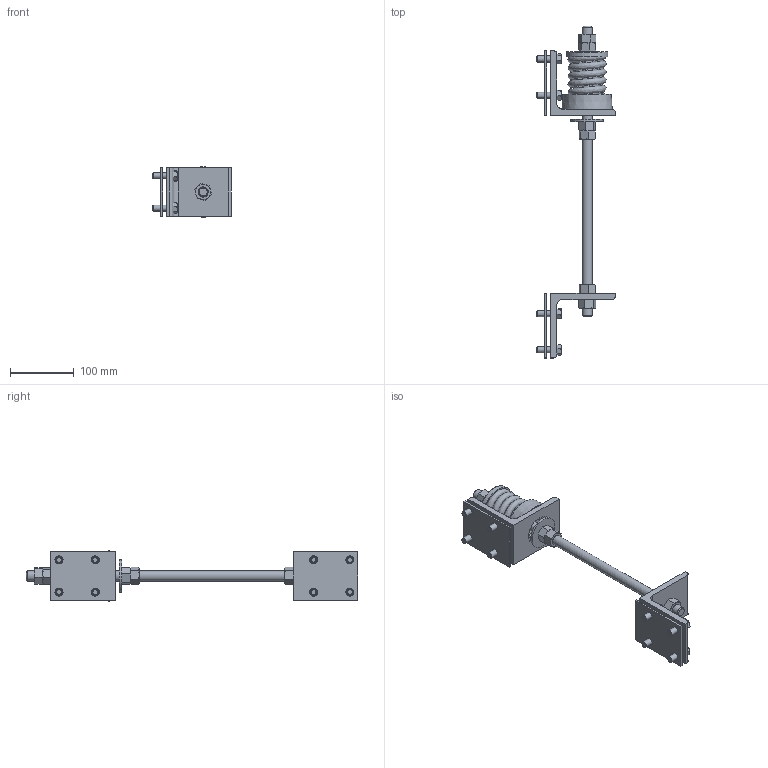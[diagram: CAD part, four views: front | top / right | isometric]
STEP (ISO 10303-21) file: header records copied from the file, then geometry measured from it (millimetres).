
FILE_DESCRIPTION((''),'2;1');
FILE_NAME('C:\2012_Work\Designs\WBI, WBD\B-750\WBD-B-1000_THRUST-RESTRAINT.stp','2013-10-22T13:06:36',('KShiels'),(''),'Autodesk Inventor 2012','Autodesk Inventor 2012','');
FILE_SCHEMA(('AUTOMOTIVE_DESIGN { 1 0 10303 214 1 1 1 1 }'));
Length unit declared in the file: inch
Products named in the file (15): WBD-B-1000_THRUST-RESTRAINT; A-16239 WBD-B2_ANGLE; A-16101-1 WBI, WBD-B-750_FIXED-SIDE-MOUNTING-ANGLE; ANSI B18.2.2 - 5_8 - 11(2)_WBI, WBD-B-750; A-16102 WBI, WBD-B-750_MOUNTING-PLATE; ANSI_ASME B18.2.1 - 3_8-16 UNC - 1.25(2)_WBI, WBD-BOLT; A-16239 WBD-B-1000_SPRING-MOUNT; A-16100-1 WBI, WBD-B-750_SPRING-MOUNTING-ANGLE; Stamped Steel Spring Cup B-21/32-Standard-A-3268-7; A-8588-3R LDS HANGER CUP B_WBI, WBD-B-750; A-8588-3R HANGER CUP B_WBI, WBD-B-750; A-8588-3R WASHER B_WBI, WBD-B-750; A-16386 WBI, WBD-B-750_WASHER; WBI, WBD-B-1000_SPRING; THREADED-ROD_0.625-11UNC, 18in-LONG
Assembly tree (27 placements, depth 4):
  WBD-B-1000_THRUST-RESTRAINT
    A-16239 WBD-B2_ANGLE
      A-16101-1 WBI, WBD-B-750_FIXED-SIDE-MOUNTING-ANGLE
      ANSI B18.2.2 - 5_8 - 11(2)_WBI, WBD-B-750  x2
      A-16102 WBI, WBD-B-750_MOUNTING-PLATE
      ANSI_ASME B18.2.1 - 3_8-16 UNC - 1.25(2)_WBI, WBD-BOLT  x4
    A-16239 WBD-B-1000_SPRING-MOUNT
      A-16100-1 WBI, WBD-B-750_SPRING-MOUNTING-ANGLE
      ANSI B18.2.2 - 5_8 - 11(2)_WBI, WBD-B-750  x4
      Stamped Steel Spring Cup B-21/32-Standard-A-3268-7
      A-8588-3R LDS HANGER CUP B_WBI, WBD-B-750
        A-8588-3R HANGER CUP B_WBI, WBD-B-750
        A-8588-3R WASHER B_WBI, WBD-B-750
      A-16386 WBI, WBD-B-750_WASHER
      WBI, WBD-B-1000_SPRING
      A-16102 WBI, WBD-B-750_MOUNTING-PLATE
      ANSI_ASME B18.2.1 - 3_8-16 UNC - 1.25(2)_WBI, WBD-BOLT  x4
    THREADED-ROD_0.625-11UNC, 18in-LONG
Bounding box: 123.83 x 522.68 x 79.31 mm (x, y, z)
Volume: 604422 mm3; surface area: 223085.7 mm2
Topology: 24 solids, 24 shells, 444 faces, 956 edges, 574 vertices
Faces by surface type: plane 215, cone 151, cylinder 68, torus 9, bspline 1
Full cylindrical faces by diameter (mm): 9.525 x8, 9.855 x8, 12.7 x16, 13.386 x6, 14.275 x8, 15.875 x1, 16.669 x1, 17.463 x2, 38.1 x1, 41.275 x1, 44.45 x2, 47.625 x2, 50.8 x1, 59.531 x1, 61.119 x1, 64.914 x1, 69.85 x2
Entity records: 5812 total; most frequent: CARTESIAN_POINT 2603, DIRECTION 641, ORIENTED_EDGE 456, AXIS2_PLACEMENT_3D 281, EDGE_CURVE 228, EDGE_LOOP 216, VERTEX_POINT 168, FACE_OUTER_BOUND 130
